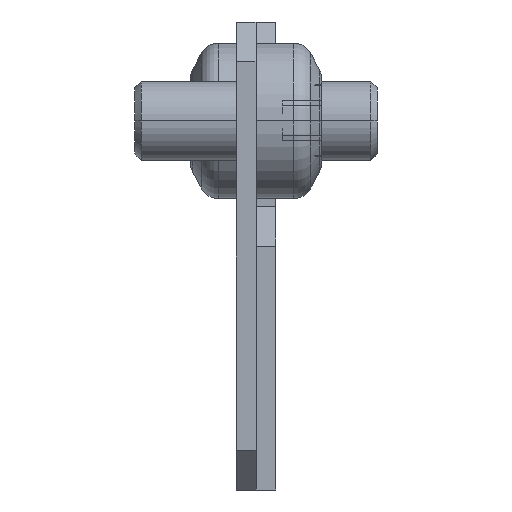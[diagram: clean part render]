
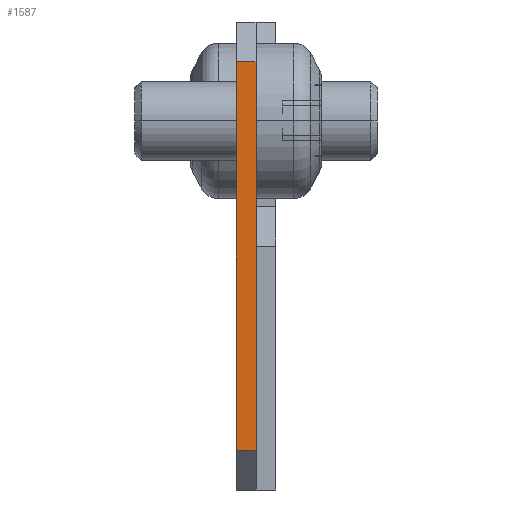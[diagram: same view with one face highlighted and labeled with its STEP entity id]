
A CAD part, front view. The second image highlights one B-rep face of the part: STEP entity #1587.
In plain terms, the highlighted planar face has unit normal (0, -1, 0).
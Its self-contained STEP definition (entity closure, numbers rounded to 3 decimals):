
#101 = VECTOR ( 'NONE', #4013, 1000. ) ;
#251 = LINE ( 'NONE', #4233, #3267 ) ;
#379 = EDGE_LOOP ( 'NONE', ( #440, #968, #3402, #2818 ) ) ;
#440 = ORIENTED_EDGE ( 'NONE', *, *, #1924, .F. ) ;
#477 = VECTOR ( 'NONE', #1994, 1000. ) ;
#548 = LINE ( 'NONE', #3025, #3454 ) ;
#567 = CARTESIAN_POINT ( 'NONE',  ( 0., -445.75, -28. ) ) ;
#630 = VERTEX_POINT ( 'NONE', #1446 ) ;
#800 = CARTESIAN_POINT ( 'NONE',  ( -1.5, -445.75, 4.5 ) ) ;
#968 = ORIENTED_EDGE ( 'NONE', *, *, #2382, .T. ) ;
#985 = EDGE_CURVE ( 'NONE', #2626, #3128, #3693, .T. ) ;
#1038 = DIRECTION ( 'NONE',  ( 0., 0., 1. ) ) ;
#1042 = EDGE_CURVE ( 'NONE', #630, #2626, #3449, .T. ) ;
#1135 = AXIS2_PLACEMENT_3D ( 'NONE', #2120, #1717, #1038 ) ;
#1446 = CARTESIAN_POINT ( 'NONE',  ( 0., -445.75, -25. ) ) ;
#1587 = ADVANCED_FACE ( 'NONE', ( #4258 ), #3522, .F. ) ;
#1717 = DIRECTION ( 'NONE',  ( 0., 1., 0. ) ) ;
#1924 = EDGE_CURVE ( 'NONE', #3533, #3128, #251, .T. ) ;
#1994 = DIRECTION ( 'NONE',  ( 0., 0., 1. ) ) ;
#2120 = CARTESIAN_POINT ( 'NONE',  ( -1.5, -445.75, -28. ) ) ;
#2382 = EDGE_CURVE ( 'NONE', #3533, #630, #548, .T. ) ;
#2567 = CARTESIAN_POINT ( 'NONE',  ( -1.5, -445.75, 4.5 ) ) ;
#2626 = VERTEX_POINT ( 'NONE', #3558 ) ;
#2818 = ORIENTED_EDGE ( 'NONE', *, *, #985, .T. ) ;
#3025 = CARTESIAN_POINT ( 'NONE',  ( -1.5, -445.75, -25. ) ) ;
#3128 = VERTEX_POINT ( 'NONE', #2567 ) ;
#3267 = VECTOR ( 'NONE', #4562, 1000. ) ;
#3402 = ORIENTED_EDGE ( 'NONE', *, *, #1042, .T. ) ;
#3449 = LINE ( 'NONE', #567, #477 ) ;
#3454 = VECTOR ( 'NONE', #3694, 1000. ) ;
#3522 = PLANE ( 'NONE',  #1135 ) ;
#3533 = VERTEX_POINT ( 'NONE', #4462 ) ;
#3558 = CARTESIAN_POINT ( 'NONE',  ( 0., -445.75, 4.5 ) ) ;
#3693 = LINE ( 'NONE', #800, #101 ) ;
#3694 = DIRECTION ( 'NONE',  ( 1., 0., 0. ) ) ;
#4013 = DIRECTION ( 'NONE',  ( -1., 0., 0. ) ) ;
#4233 = CARTESIAN_POINT ( 'NONE',  ( -1.5, -445.75, -28. ) ) ;
#4258 = FACE_OUTER_BOUND ( 'NONE', #379, .T. ) ;
#4462 = CARTESIAN_POINT ( 'NONE',  ( -1.5, -445.75, -25. ) ) ;
#4562 = DIRECTION ( 'NONE',  ( 0., 0., 1. ) ) ;
